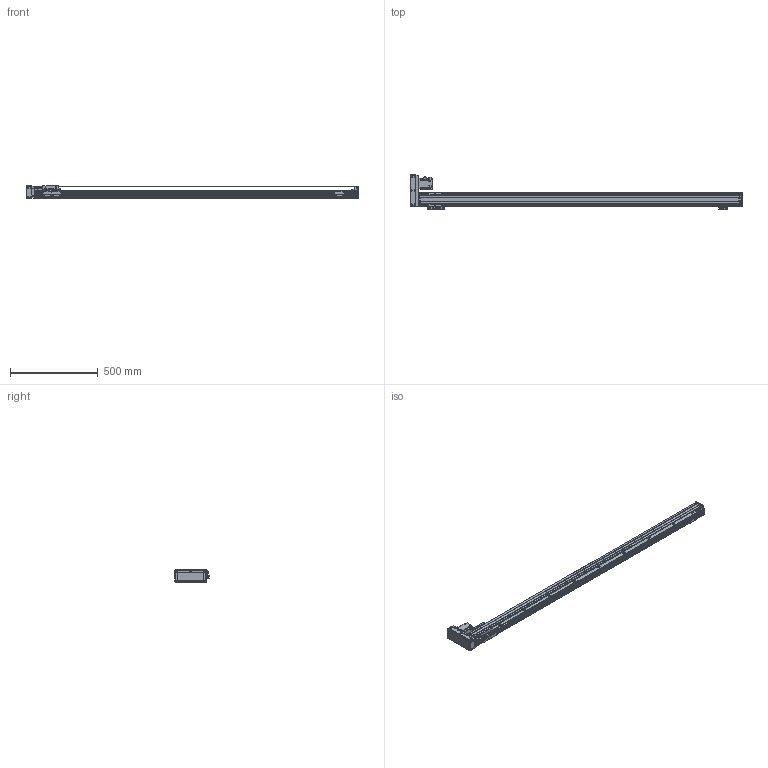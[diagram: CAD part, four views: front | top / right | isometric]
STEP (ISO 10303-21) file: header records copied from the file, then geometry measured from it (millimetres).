
FILE_DESCRIPTION(/* description */ (''),/* implementation_level */ '2;1');
FILE_NAME(/* name */ '\\192.168.0.160\disk1\HAN SHIN Master\B-설계부문\C-표준\B-2024년\BC02-표준도면\+로봇 개선표준도면\표준 승인도 작업 폴더\3D\HG75\HG75병렬\좌병렬\HG75-L20-N1B-1650-R10.stp',/* time_stamp */ '2024-02-02T10:10:23+09:00',/* author */ ('User'),/* organization */ (''),/* preprocessor_version */ 'ST-DEVELOPER v18.1',/* originating_system */ 'Autodesk Inventor 2022',/* authorisation */ '');
FILE_SCHEMA (('AUTOMOTIVE_DESIGN { 1 0 10303 214 3 1 1 }'));
Products named in the file (25): HG75-L20-N1B-0500-R10 - 간소화; BASE; HR75 FRONT BLOCK; HR75 REAR COVER-TENTION; HR75 TENSION REAR BLOCK; HG3UPCOV001; H 15F_BLOCK; HR65,75 SENSOR DOG; HG90STOPPER - 20L; HG90STOPPER - 27L; MOTOR PLATE-200W(MITSUBISHI); HC75-LR-MOTOR PLATE(200W)-사출; 화살표; HR75-LR-BELT COVER(200W); HR75-BELT COVER-COVER2; HR75-BELT COVER-COVER; hg-kr23_; HR65-BELT COVER-COVER3; hsr_ftht_A-M6F_grease_nipple_joint; NIPPLE CAP(신규); M-5HL-4; HR75 W TABLE; LMKE1520 NUT; SENSOR BRK(EE-SX674A); EE_SX674A
Assembly tree (32 placements, depth 2):
  HG75-L20-N1B-0500-R10 - 간소화
    BASE
    HR75 FRONT BLOCK
    HR75 REAR COVER-TENTION
    SENSOR BRK(EE-SX674A)  x3
    EE_SX674A  x3
    HR75 TENSION REAR BLOCK
    HG3UPCOV001
    H 15F_BLOCK
    HR65,75 SENSOR DOG
    HG90STOPPER - 20L
    HG90STOPPER - 27L
    MOTOR PLATE-200W(MITSUBISHI)
    HC75-LR-MOTOR PLATE(200W)-사출
    화살표  x2
    HR75-LR-BELT COVER(200W)
    HR75-BELT COVER-COVER2
    HR75-BELT COVER-COVER
    HR65-BELT COVER-COVER3  x2
    hg-kr23_
    hsr_ftht_A-M6F_grease_nipple_joint  x2
    NIPPLE CAP(신규)  x2
    M-5HL-4
    HR75 W TABLE
    LMKE1520 NUT
Bounding box: 1889 x 199 x 73 mm (x, y, z)
Volume: 2634061 mm3; surface area: 1233775.3 mm2
Topology: 32 solids, 32 shells, 3140 faces, 8645 edges, 5711 vertices
Faces by surface type: plane 2265, cylinder 690, cone 141, sphere 24, torus 12, bspline 8
Full cylindrical faces by diameter (mm): 1.8 x1, 2 x4, 2.013 x2, 2.459 x16, 2.5 x2, 3 x8, 3.242 x56, 3.4 x20, 3.5 x6, 4.134 x54, 4.5 x22, 4.917 x5, 5 x31, 5.5 x38, 5.6 x10, 5.8 x4, 5.9 x8, 6 x6, 6.5 x5, 7 x1, 8 x1, 9.5 x34, 14 x1, 15 x3, 17 x1, 20 x1, 25 x2, 28 x1, 32 x2, 33.7 x1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
Entity records: 92938 total; most frequent: CARTESIAN_POINT 17049, ORIENTED_EDGE 15664, DIRECTION 14965, EDGE_CURVE 7832, LINE 6289, VECTOR 6289, VERTEX_POINT 5212, AXIS2_PLACEMENT_3D 4338
